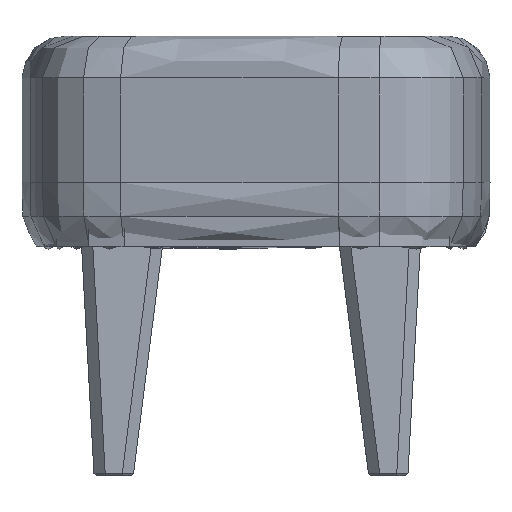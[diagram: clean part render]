
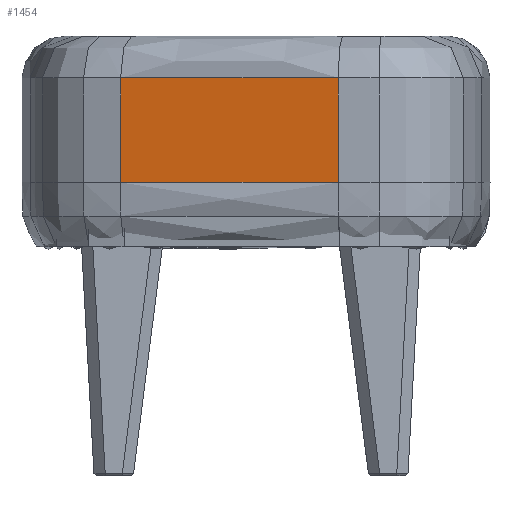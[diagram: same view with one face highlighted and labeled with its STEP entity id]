
A CAD part, front view. The second image highlights one B-rep face of the part: STEP entity #1454.
In plain terms, the highlighted cylindrical face has radius 1282.14 mm (diameter 2564.29 mm), a partial arc.
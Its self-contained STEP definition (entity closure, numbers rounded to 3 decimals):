
#1454=ADVANCED_FACE('',(#2278),#12776,.F.);
#2278=FACE_OUTER_BOUND('',#3113,.T.);
#3113=EDGE_LOOP('',(#6199,#6200,#6201,#6202));
#6199=ORIENTED_EDGE('',*,*,#8716,.F.);
#6200=ORIENTED_EDGE('',*,*,#8697,.T.);
#6201=ORIENTED_EDGE('',*,*,#8715,.F.);
#6202=ORIENTED_EDGE('',*,*,#8714,.F.);
#8697=EDGE_CURVE('',#12082,#12083,#11006,.T.);
#8714=EDGE_CURVE('',#12091,#12092,#11009,.T.);
#8715=EDGE_CURVE('',#12092,#12083,#10025,.T.);
#8716=EDGE_CURVE('',#12082,#12091,#10026,.T.);
#10025=(
BOUNDED_CURVE()
B_SPLINE_CURVE(2,(#31808,#31809,#31810),.UNSPECIFIED.,.F.,.F.)
B_SPLINE_CURVE_WITH_KNOTS((3,3),(0.,197.685),.UNSPECIFIED.)
CURVE()
GEOMETRIC_REPRESENTATION_ITEM()
RATIONAL_B_SPLINE_CURVE((1.,0.997,1.))
REPRESENTATION_ITEM('')
);
#10026=(
BOUNDED_CURVE()
B_SPLINE_CURVE(2,(#31811,#31812,#31813),.UNSPECIFIED.,.F.,.F.)
B_SPLINE_CURVE_WITH_KNOTS((3,3),(0.,197.685),.UNSPECIFIED.)
CURVE()
GEOMETRIC_REPRESENTATION_ITEM()
RATIONAL_B_SPLINE_CURVE((1.,0.997,1.))
REPRESENTATION_ITEM('')
);
#11006=B_SPLINE_CURVE_WITH_KNOTS('',1,(#31754,#31755),.UNSPECIFIED.,.F.,
 .F.,(2,2),(0.,93.406),.UNSPECIFIED.);
#11009=B_SPLINE_CURVE_WITH_KNOTS('',1,(#31806,#31807),.UNSPECIFIED.,.F.,
 .F.,(2,2),(0.,93.406),.UNSPECIFIED.);
#12082=VERTEX_POINT('',#31355);
#12083=VERTEX_POINT('',#31356);
#12091=VERTEX_POINT('',#31364);
#12092=VERTEX_POINT('',#31365);
#12776=CYLINDRICAL_SURFACE('',#13887,1282.144);
#13887=AXIS2_PLACEMENT_3D('',#30478,#14543,$);
#14543=DIRECTION('',(0.,0.,-1.));
#30478=CARTESIAN_POINT('',(-176.494,404.615,-256.773));
#31355=CARTESIAN_POINT('',(-497.021,-836.817,-303.476));
#31356=CARTESIAN_POINT('',(-497.021,-836.817,-210.069));
#31364=CARTESIAN_POINT('',(-302.568,-871.315,-303.476));
#31365=CARTESIAN_POINT('',(-302.568,-871.315,-210.069));
#31754=CARTESIAN_POINT('',(-497.021,-836.817,-303.476));
#31755=CARTESIAN_POINT('',(-497.021,-836.817,-210.069));
#31806=CARTESIAN_POINT('',(-302.568,-871.315,-303.476));
#31807=CARTESIAN_POINT('',(-302.568,-871.315,-210.069));
#31808=CARTESIAN_POINT('',(-302.568,-871.315,-210.069));
#31809=CARTESIAN_POINT('',(-401.127,-861.576,-210.069));
#31810=CARTESIAN_POINT('',(-497.021,-836.817,-210.069));
#31811=CARTESIAN_POINT('',(-497.021,-836.817,-303.476));
#31812=CARTESIAN_POINT('',(-401.127,-861.576,-303.476));
#31813=CARTESIAN_POINT('',(-302.568,-871.315,-303.476));
